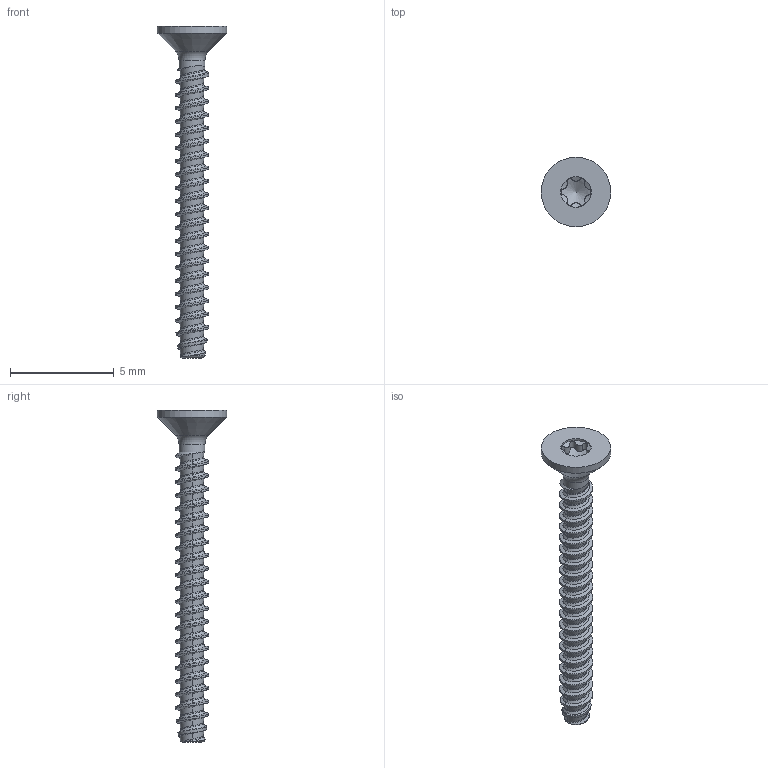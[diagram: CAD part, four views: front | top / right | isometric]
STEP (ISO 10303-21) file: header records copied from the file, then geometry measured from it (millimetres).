
FILE_DESCRIPTION(/* description */ (''),/* implementation_level */ '2;1');
FILE_NAME(/* name */ 'KN6041-STSplus16x16-T5.step',/* time_stamp */ '2017-10-12T08:40:28+02:00',/* author */ (''),/* organization */ (''),/* preprocessor_version */ 'ST-DEVELOPER v16',/* originating_system */ 'SIEMENS PLM Software NX 10.0',/* authorisation */ '');
FILE_SCHEMA (('AUTOMOTIVE_DESIGN { 1 0 10303 214 3 1 1 1 }'));
Length unit declared in the file: millimetre
Products named in the file (1): KN6041-STSplus16x16-T5
Bounding box: 3.35 x 3.35 x 16 mm (x, y, z)
Volume: 24.7 mm3; surface area: 113.2 mm2
Topology: 1 solids, 1 shells, 119 faces, 303 edges, 186 vertices
Faces by surface type: bspline 92, cylinder 17, cone 5, plane 3, torus 2
Full cylindrical faces by diameter (mm): 1.25 x1, 1.47 x1, 3.35 x1
Entity records: 9488 total; most frequent: CARTESIAN_POINT 7311, ORIENTED_EDGE 578, EDGE_CURVE 289, VERTEX_POINT 181, DIRECTION 179, B_SPLINE_CURVE_WITH_KNOTS 178, EDGE_LOOP 127, ADVANCED_FACE 119
